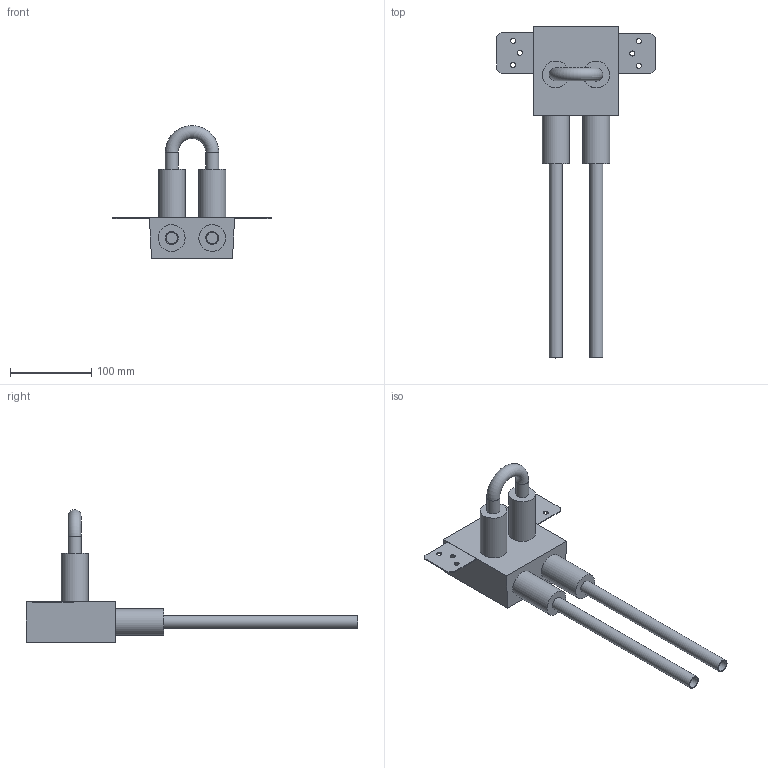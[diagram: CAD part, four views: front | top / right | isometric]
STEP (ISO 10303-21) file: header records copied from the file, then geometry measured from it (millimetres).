
FILE_DESCRIPTION(/* description */ (''),/* implementation_level */ '2;1');
FILE_NAME(/* name */ '\\LG50011\SANHA_Legnica\Engineering\Public\PROJEKTY\SANHA-BOX_Support_BiR\002-Rysunki_Boxów\25-HK-T-bleich\Zespół-325HKM16-Kurz_Bleich.stp',/* time_stamp */ '2018-11-05T14:31:58+01:00',/* author */ ('gomulka'),/* organization */ (''),/* preprocessor_version */ 'ST-DEVELOPER v16.13',/* originating_system */ 'Autodesk Inventor 2018',/* authorisation */ '');
FILE_SCHEMA (('AUTOMOTIVE_DESIGN { 1 0 10303 214 3 1 1 }'));
Length unit declared in the file: millimetre
Products named in the file (6): Zespół-325HKM16-Kurz_Bleich; 325HKM16; Rura16x2-kolano; Kurze_blech; Rura_16x2-krotka; Isolierung
Assembly tree (10 placements, depth 2):
  Zespół-325HKM16-Kurz_Bleich
    325HKM16
    Rura16x2-kolano
    Kurze_blech  x2
    Rura_16x2-krotka  x2
    Isolierung  x4
Bounding box: 195 x 409.46 x 163.54 mm (x, y, z)
Volume: 769006 mm3; surface area: 189088.8 mm2
Topology: 10 solids, 10 shells, 72 faces, 148 edges, 100 vertices
Faces by surface type: plane 40, cylinder 30, torus 2
Full cylindrical faces by diameter (mm): 6.2 x6, 14 x4, 15 x4, 16 x8, 33 x4
Entity records: 1517 total; most frequent: CARTESIAN_POINT 291, DIRECTION 236, ORIENTED_EDGE 152, AXIS2_PLACEMENT_3D 103, EDGE_LOOP 78, EDGE_CURVE 76, VERTEX_POINT 62, FACE_OUTER_BOUND 45
